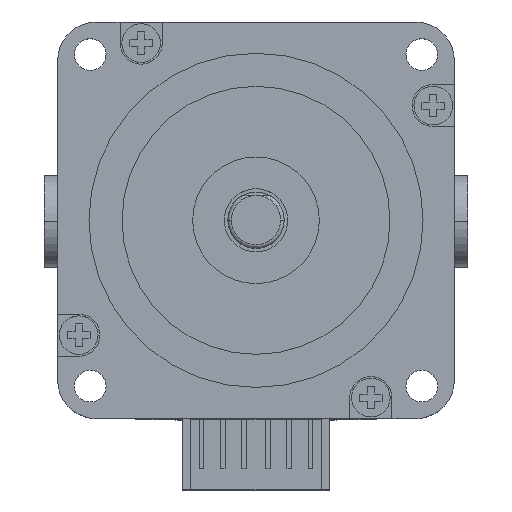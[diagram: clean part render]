
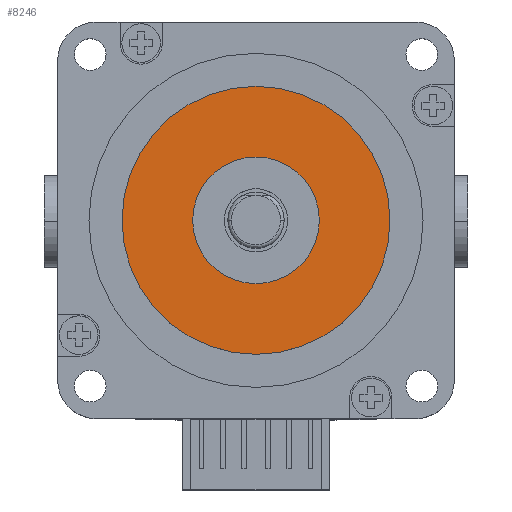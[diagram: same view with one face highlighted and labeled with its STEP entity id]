
A CAD part, top view. The second image highlights one B-rep face of the part: STEP entity #8246.
In plain terms, the highlighted planar face has unit normal (0, 0, 1).
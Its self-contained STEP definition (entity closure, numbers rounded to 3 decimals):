
#8 = AXIS2_PLACEMENT_3D ( 'NONE', #4073, #6183, #6881 ) ;
#345 = AXIS2_PLACEMENT_3D ( 'NONE', #1554, #4343, #7992 ) ;
#513 = EDGE_LOOP ( 'NONE', ( #5503, #4255 ) ) ;
#641 = DIRECTION ( 'NONE',  ( 0., 0., 1. ) ) ;
#817 = CIRCLE ( 'NONE', #3260, 9. ) ;
#1175 = CARTESIAN_POINT ( 'NONE',  ( -19.05, 0., 1.6 ) ) ;
#1214 = AXIS2_PLACEMENT_3D ( 'NONE', #2826, #1501, #2205 ) ;
#1265 = AXIS2_PLACEMENT_3D ( 'NONE', #3343, #9050, #1886 ) ;
#1501 = DIRECTION ( 'NONE',  ( 0., 0., 1. ) ) ;
#1554 = CARTESIAN_POINT ( 'NONE',  ( 0., 0., 1.6 ) ) ;
#1815 = EDGE_CURVE ( 'NONE', #2887, #8004, #817, .T. ) ;
#1886 = DIRECTION ( 'NONE',  ( -1., 0., 0. ) ) ;
#2007 = PLANE ( 'NONE',  #1265 ) ;
#2205 = DIRECTION ( 'NONE',  ( -1., 0., 0. ) ) ;
#2455 = CIRCLE ( 'NONE', #345, 19.05 ) ;
#2651 = EDGE_CURVE ( 'NONE', #2840, #8380, #2455, .T. ) ;
#2826 = CARTESIAN_POINT ( 'NONE',  ( 0., 0., 1.6 ) ) ;
#2840 = VERTEX_POINT ( 'NONE', #3711 ) ;
#2887 = VERTEX_POINT ( 'NONE', #4925 ) ;
#3260 = AXIS2_PLACEMENT_3D ( 'NONE', #4930, #641, #3651 ) ;
#3343 = CARTESIAN_POINT ( 'NONE',  ( 0., 0., 1.6 ) ) ;
#3350 = CARTESIAN_POINT ( 'NONE',  ( 9., 0., 1.6 ) ) ;
#3414 = FACE_BOUND ( 'NONE', #513, .T. ) ;
#3651 = DIRECTION ( 'NONE',  ( -1., 0., 0. ) ) ;
#3711 = CARTESIAN_POINT ( 'NONE',  ( 19.05, 0., 1.6 ) ) ;
#4073 = CARTESIAN_POINT ( 'NONE',  ( 0., 0., 1.6 ) ) ;
#4255 = ORIENTED_EDGE ( 'NONE', *, *, #5372, .F. ) ;
#4343 = DIRECTION ( 'NONE',  ( 0., 0., 1. ) ) ;
#4569 = CIRCLE ( 'NONE', #1214, 9. ) ;
#4792 = ORIENTED_EDGE ( 'NONE', *, *, #2651, .T. ) ;
#4925 = CARTESIAN_POINT ( 'NONE',  ( -9., 0., 1.6 ) ) ;
#4930 = CARTESIAN_POINT ( 'NONE',  ( 0., 0., 1.6 ) ) ;
#5169 = EDGE_LOOP ( 'NONE', ( #4792, #7960 ) ) ;
#5226 = FACE_OUTER_BOUND ( 'NONE', #5169, .T. ) ;
#5372 = EDGE_CURVE ( 'NONE', #8004, #2887, #4569, .T. ) ;
#5503 = ORIENTED_EDGE ( 'NONE', *, *, #1815, .F. ) ;
#6183 = DIRECTION ( 'NONE',  ( 0., 0., 1. ) ) ;
#6876 = EDGE_CURVE ( 'NONE', #8380, #2840, #7721, .T. ) ;
#6881 = DIRECTION ( 'NONE',  ( 1., 0., 0. ) ) ;
#7721 = CIRCLE ( 'NONE', #8, 19.05 ) ;
#7960 = ORIENTED_EDGE ( 'NONE', *, *, #6876, .T. ) ;
#7992 = DIRECTION ( 'NONE',  ( 1., 0., 0. ) ) ;
#8004 = VERTEX_POINT ( 'NONE', #3350 ) ;
#8246 = ADVANCED_FACE ( 'NONE', ( #3414, #5226 ), #2007, .F. ) ;
#8380 = VERTEX_POINT ( 'NONE', #1175 ) ;
#9050 = DIRECTION ( 'NONE',  ( 0., 0., -1. ) ) ;
